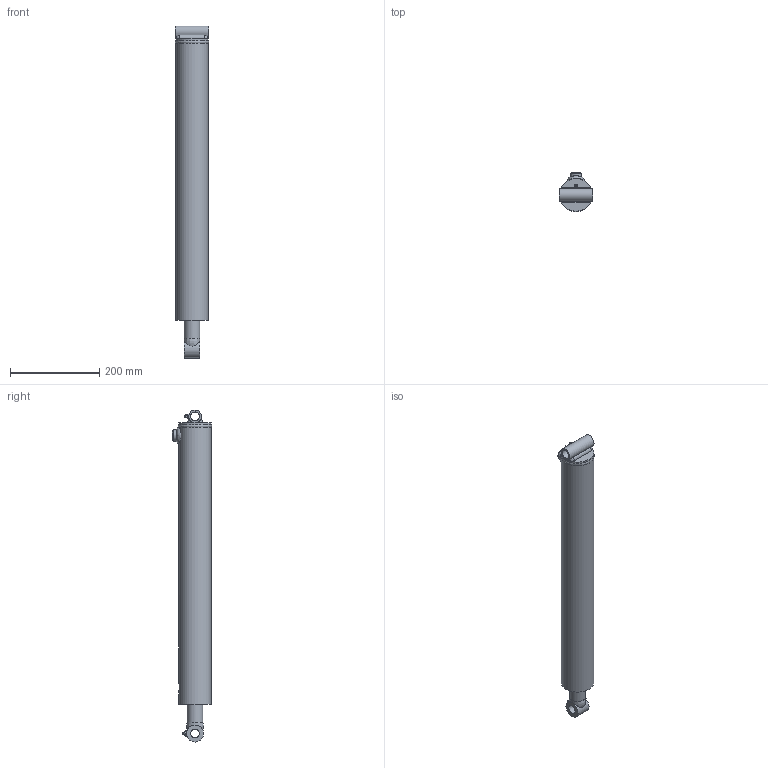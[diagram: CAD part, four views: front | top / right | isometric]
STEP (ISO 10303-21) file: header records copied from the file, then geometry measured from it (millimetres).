
FILE_DESCRIPTION((''),'2;1');
FILE_NAME('C:\Vault\Workspace\RefDataCylinders\Standards\PMC-5400\PMC-5420.stp','2010-07-20T12:39:42',('kneifld'),(''),'Autodesk Inventor 2010','Autodesk Inventor 2010','');
FILE_SCHEMA(('AUTOMOTIVE_DESIGN { 1 0 10303 214 1 1 1 1 }'));
Length unit declared in the file: inch
Products named in the file (19): PMC-5420; 061300048; 051300073; 161300005; 200014303; 210300144; B&TWeldVest; PortWeldVest; X-tube Weld; 081300356; 020700172; 010700665; 210300202; Rod Weld; 071300016; 220000208; 270010002; 270010020; 230001250
Assembly tree (18 placements, depth 3):
  PMC-5420
    061300048
      051300073
      161300005
      200014303
      210300144
      B&TWeldVest
      PortWeldVest
      X-tube Weld
    081300356
    020700172
      010700665
      210300202
      Rod Weld
    071300016
    220000208
    270010002
    270010020
    230001250
Bounding box: 76.2 x 87.97 x 744.52 mm (x, y, z)
Volume: 1542520.9 mm3; surface area: 440603.2 mm2
Topology: 16 solids, 16 shells, 198 faces, 415 edges, 259 vertices
Faces by surface type: plane 72, cylinder 53, cone 31, bspline 24, torus 16, sphere 2
Full cylindrical faces by diameter (mm): 1.524 x1, 2.794 x2, 6.074 x1, 9.525 x1, 18.999 x1, 19.126 x1, 19.558 x1, 19.837 x1, 19.844 x1, 21.615 x1, 25.4 x2, 28.575 x1, 34.925 x1, 35.001 x2, 38.1 x1, 38.71 x1, 41.275 x2, 42.85 x1, 48.768 x1, 54.051 x1, 54.864 x1, 56.032 x1, 58.725 x1, 63.017 x2, 63.246 x2, 63.271 x1, 63.5 x2, 65.088 x2, 67.259 x1, 73.025 x2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
Entity records: 6809 total; most frequent: CARTESIAN_POINT 2571, DIRECTION 815, ORIENTED_EDGE 598, AXIS2_PLACEMENT_3D 380, EDGE_LOOP 342, EDGE_CURVE 299, VERTEX_POINT 243, FACE_OUTER_BOUND 198
